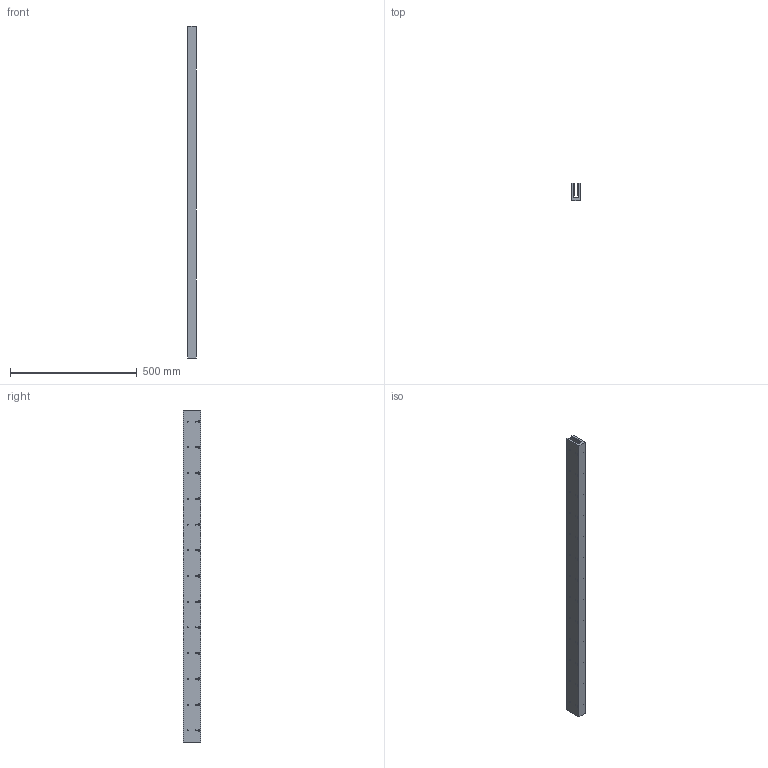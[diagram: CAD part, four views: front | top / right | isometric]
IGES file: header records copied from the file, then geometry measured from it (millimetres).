
Global section: file name: No Iges File Name specified; native system: Autodesk Inventor 2009; preprocessor: AutoDesk Inventor Iges Exporter R2009; author: je17857; date: 20091116.111711; units: inch
Bounding box: 34.29 x 67.31 x 1310.64 mm (x, y, z)
Volume: 1959469.7 mm3; surface area: 493183.4 mm2
Topology: 1 solids, 1 shells, 674 faces, 1602 edges, 1068 vertices
Faces by surface type: plane 466, bspline 208
